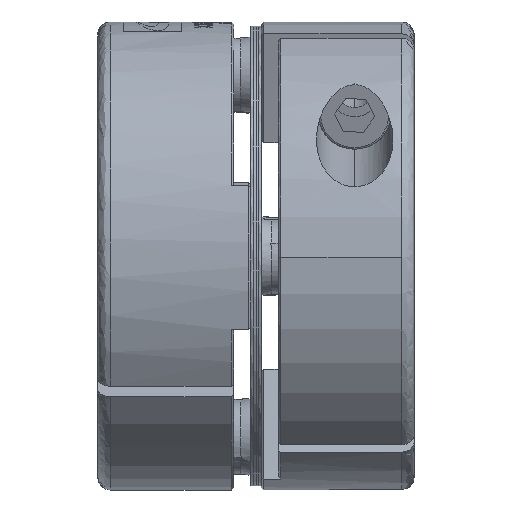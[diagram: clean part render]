
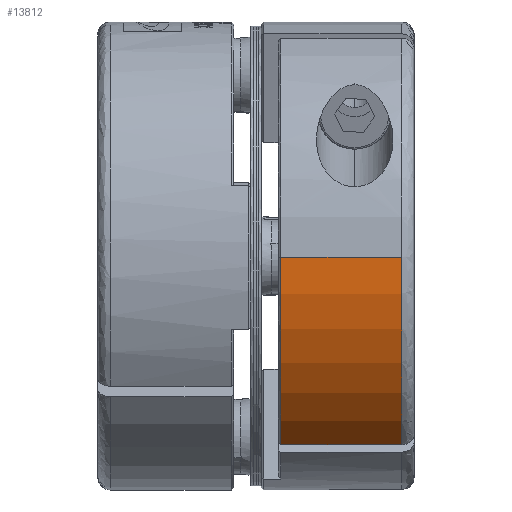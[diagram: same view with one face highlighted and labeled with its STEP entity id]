
A CAD part, left-side view. The second image highlights one B-rep face of the part: STEP entity #13812.
In plain terms, the highlighted cylindrical face has radius 27.5 mm (diameter 55 mm), a partial arc.
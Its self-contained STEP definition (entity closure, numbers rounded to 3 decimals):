
#189 = VERTEX_POINT ( 'NONE', #3464 ) ;
#204 = VERTEX_POINT ( 'NONE', #3537 ) ;
#205 = EDGE_CURVE ( 'NONE', #204, #189, #3536, .T. ) ;
#214 = VERTEX_POINT ( 'NONE', #3554 ) ;
#221 = EDGE_CURVE ( 'NONE', #189, #214, #3584, .T. ) ;
#403 = VERTEX_POINT ( 'NONE', #4243 ) ;
#407 = EDGE_CURVE ( 'NONE', #403, #204, #4236, .T. ) ;
#3464 = CARTESIAN_POINT ( 'NONE',  ( -22.357, -10.313, -20.103 ) ) ;
#3533 = DIRECTION ( 'NONE',  ( 0., 1., 0. ) ) ;
#3534 = VECTOR ( 'NONE', #3533, 1000. ) ;
#3535 = CARTESIAN_POINT ( 'NONE',  ( -22.357, -10.013, -20.103 ) ) ;
#3536 = LINE ( 'NONE', #3535, #3534 ) ;
#3537 = CARTESIAN_POINT ( 'NONE',  ( -22.357, -24.513, -20.103 ) ) ;
#3554 = CARTESIAN_POINT ( 'NONE',  ( -33.614, -10.313, 1.915 ) ) ;
#3580 = DIRECTION ( 'NONE',  ( -1., 0., -0.006 ) ) ;
#3581 = DIRECTION ( 'NONE',  ( 0., 1., 0. ) ) ;
#3582 = CARTESIAN_POINT ( 'NONE',  ( -6.114, -10.313, 2.088 ) ) ;
#3583 = AXIS2_PLACEMENT_3D ( 'NONE', #3582, #3581, #3580 ) ;
#3584 = CIRCLE ( 'NONE', #3583, 27.5 ) ;
#4232 = DIRECTION ( 'NONE',  ( 1., 0., 0.006 ) ) ;
#4233 = DIRECTION ( 'NONE',  ( 0., -1., 0. ) ) ;
#4234 = CARTESIAN_POINT ( 'NONE',  ( -6.114, -24.513, 2.088 ) ) ;
#4235 = AXIS2_PLACEMENT_3D ( 'NONE', #4234, #4233, #4232 ) ;
#4236 = CIRCLE ( 'NONE', #4235, 27.5 ) ;
#4243 = CARTESIAN_POINT ( 'NONE',  ( -33.614, -24.513, 1.915 ) ) ;
#12718 = FACE_OUTER_BOUND ( 'NONE', #13821, .T. ) ;
#12786 = DIRECTION ( 'NONE',  ( 1., 0., 0. ) ) ;
#12787 = DIRECTION ( 'NONE',  ( 0., -1., 0. ) ) ;
#12788 = CARTESIAN_POINT ( 'NONE',  ( -6.114, -8.013, 2.088 ) ) ;
#12789 = AXIS2_PLACEMENT_3D ( 'NONE', #12788, #12787, #12786 ) ;
#12790 = CYLINDRICAL_SURFACE ( 'NONE', #12789, 27.5 ) ;
#12894 = DIRECTION ( 'NONE',  ( 0., -1., 0. ) ) ;
#12895 = VECTOR ( 'NONE', #12894, 1000. ) ;
#12896 = CARTESIAN_POINT ( 'NONE',  ( -33.614, -8.013, 1.915 ) ) ;
#12901 = LINE ( 'NONE', #12896, #12895 ) ;
#13808 = ORIENTED_EDGE ( 'NONE', *, *, #221, .T. ) ;
#13812 = ADVANCED_FACE ( 'NONE', ( #12718 ), #12790, .F. ) ;
#13816 = ORIENTED_EDGE ( 'NONE', *, *, #205, .T. ) ;
#13821 = EDGE_LOOP ( 'NONE', ( #13816, #13808, #13846, #13852 ) ) ;
#13846 = ORIENTED_EDGE ( 'NONE', *, *, #13850, .T. ) ;
#13850 = EDGE_CURVE ( 'NONE', #214, #403, #12901, .T. ) ;
#13852 = ORIENTED_EDGE ( 'NONE', *, *, #407, .T. ) ;
